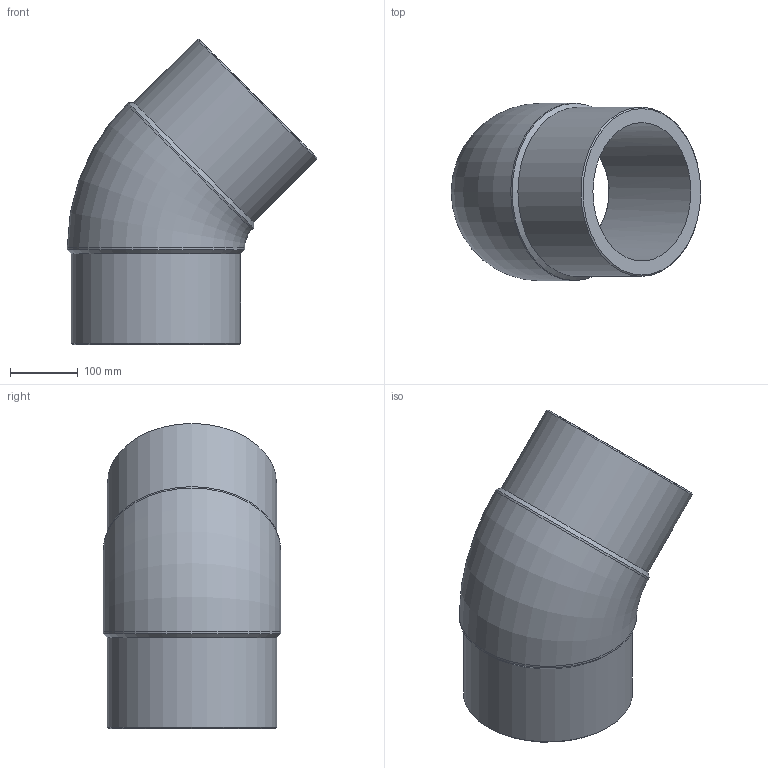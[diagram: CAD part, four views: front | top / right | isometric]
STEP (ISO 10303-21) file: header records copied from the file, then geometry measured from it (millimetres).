
FILE_DESCRIPTION(/* description */ ('Unknown'),/* implementation_level */ '2;1');
FILE_NAME(/* name */ 'G4P250C',/* time_stamp */ '2022-01-20T10:34:21+01:00',/* author */ ('Unknown'),/* organization */ ('Unknown'),/* preprocessor_version */ 'ST-DEVELOPER v18.1',/* originating_system */ 'Solid Edge',/* authorisation */ 'Unknown');
FILE_SCHEMA (('AUTOMOTIVE_DESIGN {1 0 10303 214 3 1 1}'));
Length unit declared in the file: millimetre
Products named in the file (1): G4P250C
Bounding box: 368.59 x 262 x 450.59 mm (x, y, z)
Volume: 7519345.2 mm3; surface area: 638243.9 mm2
Topology: 1 solids, 1 shells, 14 faces, 34 edges, 22 vertices
Faces by surface type: cylinder 6, cone 4, plane 2, torus 2
Full cylindrical faces by diameter (mm): 204.6 x2, 250 x2, 262 x2
Entity records: 370 total; most frequent: CARTESIAN_POINT 70, DIRECTION 60, ORIENTED_EDGE 38, AXIS2_PLACEMENT_3D 30, EDGE_LOOP 27, FACE_BOUND 27, EDGE_CURVE 19, VERTEX_POINT 18
